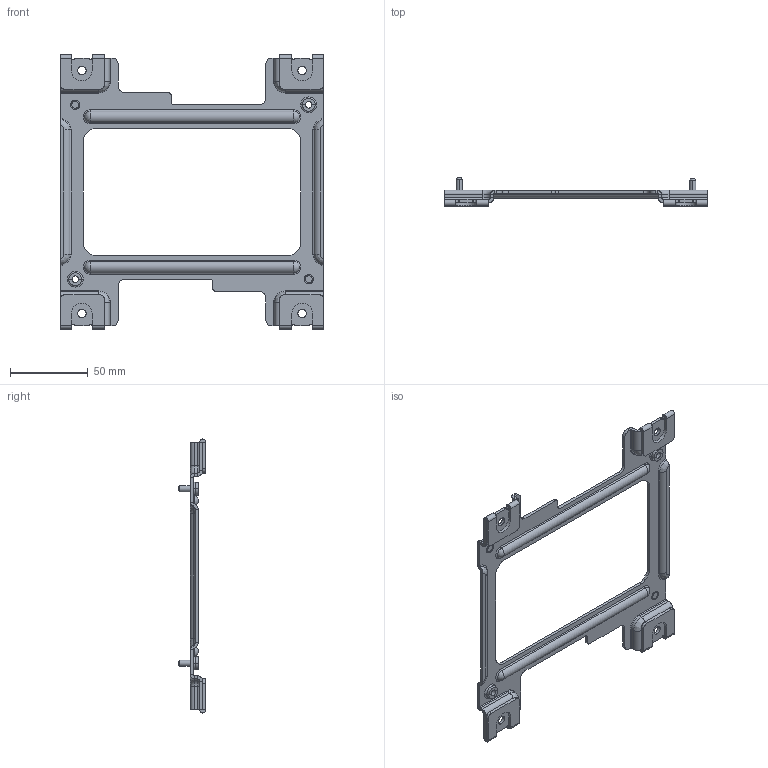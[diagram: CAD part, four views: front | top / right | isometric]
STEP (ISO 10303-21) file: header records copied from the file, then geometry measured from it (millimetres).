
FILE_DESCRIPTION((''),'2;1');
FILE_NAME('5305930_ASM','2021-02-04T',('AlWu'),('Sierra Wireless'),'CREO PARAMETRIC BY PTC INC, 2016380','CREO PARAMETRIC BY PTC INC, 2016380','');
FILE_SCHEMA(('AUTOMOTIVE_DESIGN { 1 0 10303 214 1 1 1 1 }'));
Length unit declared in the file: millimetre
Products named in the file (3): 5305930; TPS-4MM-10-PENNENGINEERING-3D-0; 5305930_ASM
Assembly tree (3 placements, depth 2):
  5305930_ASM
    5305930
    TPS-4MM-10-PENNENGINEERING-3D-0  x2
Bounding box: 170 x 18 x 176.6 mm (x, y, z)
Volume: 32847.3 mm3; surface area: 36485.8 mm2
Topology: 3 solids, 3 shells, 418 faces, 980 edges, 558 vertices
Faces by surface type: plane 162, cylinder 156, torus 56, cone 20, bspline 16, sphere 8
Entity records: 15644 total; most frequent: CARTESIAN_POINT 2901, DIRECTION 2044, ORIENTED_EDGE 1812, PRESENTATION_STYLE_ASSIGNMENT 908, STYLED_ITEM 908, CURVE_STYLE 906, EDGE_CURVE 906, AXIS2_PLACEMENT_3D 778
